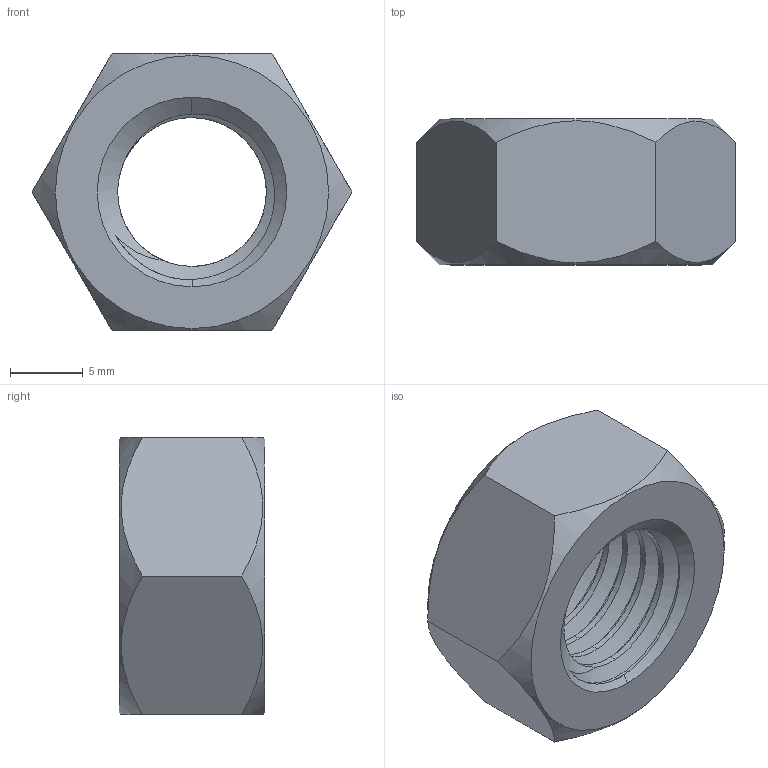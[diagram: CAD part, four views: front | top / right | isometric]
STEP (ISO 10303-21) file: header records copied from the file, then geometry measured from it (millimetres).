
FILE_DESCRIPTION (( 'STEP AP203' ), '1' );
FILE_NAME ('TAN-304RN-M12.STEP', '2026-08-20T13:29:45', ( '' ), ( '' ), 'SwSTEP 2.0', 'SolidWorks 2020', '' );
FILE_SCHEMA (( 'CONFIG_CONTROL_DESIGN' ));
Length unit declared in the file: millimetre
Products named in the file (1): TAN-304RN-M12
Bounding box: 21.94 x 10 x 19 mm (x, y, z)
Volume: 2101.9 mm3; surface area: 1542.1 mm2
Topology: 1 solids, 1 shells, 29 faces, 81 edges, 54 vertices
Faces by surface type: cylinder 10, cone 8, plane 8, bspline 3
Entity records: 4794 total; most frequent: CARTESIAN_POINT 4073, ORIENTED_EDGE 162, DIRECTION 97, EDGE_CURVE 81, VERTEX_POINT 54, AXIS2_PLACEMENT_3D 37, B_SPLINE_CURVE_WITH_KNOTS 36, EDGE_LOOP 31
